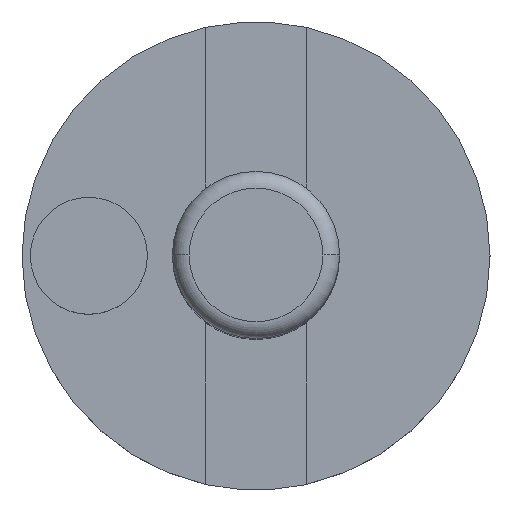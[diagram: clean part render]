
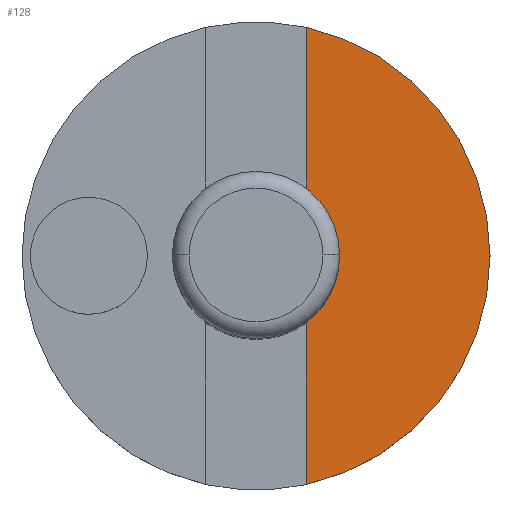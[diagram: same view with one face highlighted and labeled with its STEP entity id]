
A CAD part, top view. The second image highlights one B-rep face of the part: STEP entity #128.
In plain terms, the highlighted planar face has unit normal (0, 0, 1).
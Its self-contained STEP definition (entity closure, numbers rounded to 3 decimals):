
#108=PLANE('',#663);
#128=ADVANCED_FACE('',(#180),#108,.T.);
#180=FACE_OUTER_BOUND('',#214,.T.);
#214=EDGE_LOOP('',(#321,#322,#323,#324,#325,#326));
#255=CIRCLE('',#655,2.5);
#257=CIRCLE('',#658,2.5);
#259=CIRCLE('',#661,7.);
#260=CIRCLE('',#662,7.);
#321=ORIENTED_EDGE('',*,*,#503,.T.);
#322=ORIENTED_EDGE('',*,*,#511,.F.);
#323=ORIENTED_EDGE('',*,*,#512,.F.);
#324=ORIENTED_EDGE('',*,*,#513,.F.);
#325=ORIENTED_EDGE('',*,*,#514,.F.);
#326=ORIENTED_EDGE('',*,*,#508,.T.);
#453=VERTEX_POINT('',#942);
#454=VERTEX_POINT('',#944);
#457=VERTEX_POINT('',#953);
#459=VERTEX_POINT('',#959);
#460=VERTEX_POINT('',#961);
#461=VERTEX_POINT('',#963);
#503=EDGE_CURVE('',#454,#453,#255,.T.);
#508=EDGE_CURVE('',#457,#454,#257,.T.);
#511=EDGE_CURVE('',#459,#453,#575,.T.);
#512=EDGE_CURVE('',#460,#459,#259,.T.);
#513=EDGE_CURVE('',#461,#460,#260,.T.);
#514=EDGE_CURVE('',#457,#461,#576,.T.);
#575=LINE('',#958,#611);
#576=LINE('',#964,#612);
#611=VECTOR('',#770,1.);
#612=VECTOR('',#775,1.);
#655=AXIS2_PLACEMENT_3D('',#943,#754,#755);
#658=AXIS2_PLACEMENT_3D('',#952,#763,#764);
#661=AXIS2_PLACEMENT_3D('',#960,#771,#772);
#662=AXIS2_PLACEMENT_3D('',#962,#773,#774);
#663=AXIS2_PLACEMENT_3D('',#965,#776,#777);
#754=DIRECTION('',(0.,0.,-1.));
#755=DIRECTION('',(0.,1.,0.));
#763=DIRECTION('',(0.,0.,-1.));
#764=DIRECTION('',(0.,-1.,0.));
#770=DIRECTION('',(0.,1.,0.));
#771=DIRECTION('',(0.,0.,-1.));
#772=DIRECTION('',(0.,1.,0.));
#773=DIRECTION('',(0.,0.,-1.));
#774=DIRECTION('',(0.,-1.,0.));
#775=DIRECTION('',(0.,1.,0.));
#776=DIRECTION('',(0.,0.,1.));
#777=DIRECTION('',(-1.,0.,0.));
#942=CARTESIAN_POINT('',(1.5,-2.,3.));
#943=CARTESIAN_POINT('',(0.,0.,3.));
#944=CARTESIAN_POINT('',(2.5,0.,3.));
#952=CARTESIAN_POINT('',(0.,0.,3.));
#953=CARTESIAN_POINT('',(1.5,2.,3.));
#958=CARTESIAN_POINT('',(1.5,7.03,3.));
#959=CARTESIAN_POINT('',(1.5,-6.837,3.));
#960=CARTESIAN_POINT('',(0.,0.,3.));
#961=CARTESIAN_POINT('',(7.,0.,3.));
#962=CARTESIAN_POINT('',(0.,0.,3.));
#963=CARTESIAN_POINT('',(1.5,6.837,3.));
#964=CARTESIAN_POINT('',(1.5,7.03,3.));
#965=CARTESIAN_POINT('',(0.,0.,3.));
